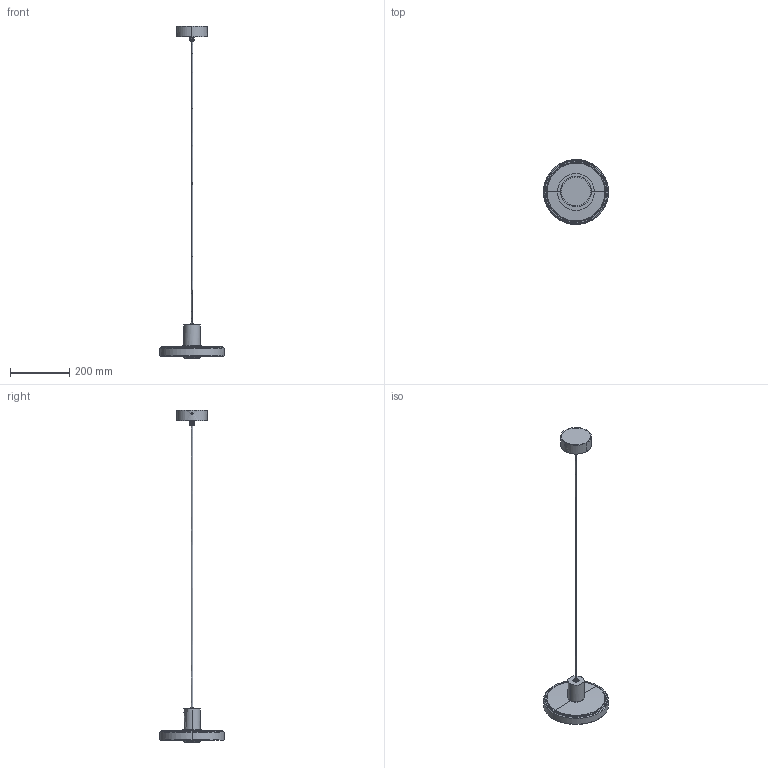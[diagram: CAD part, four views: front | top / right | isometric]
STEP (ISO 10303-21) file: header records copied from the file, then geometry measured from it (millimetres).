
FILE_DESCRIPTION(/* description */ (''),/* implementation_level */ '2;1');
FILE_NAME(/* name */ 'EL048.022',/* time_stamp */ '2024-09-03T14:16:07+02:00',/* author */ (''),/* organization */ (''),/* preprocessor_version */ 'ST-DEVELOPER v16.5',/* originating_system */ '',/* authorisation */ '');
FILE_SCHEMA (('AUTOMOTIVE_DESIGN'));
Length unit declared in the file: millimetre
Products named in the file (1): Document
Bounding box: 220 x 219.6 x 1124.9 mm (x, y, z)
Volume: 1632149.3 mm3; surface area: 265676.7 mm2
Topology: 19 solids, 19 shells, 543 faces, 1225 edges, 719 vertices
Faces by surface type: bspline 387, plane 156
Entity records: 25692 total; most frequent: CARTESIAN_POINT 18486, ORIENTED_EDGE 2410, EDGE_CURVE 1205, VERTEX_POINT 719, EDGE_LOOP 602, B_SPLINE_CURVE_WITH_KNOTS 574, ADVANCED_FACE 543, FACE_OUTER_BOUND 543
